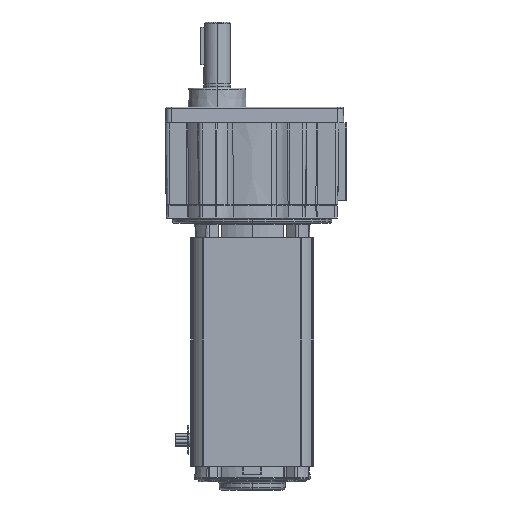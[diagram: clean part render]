
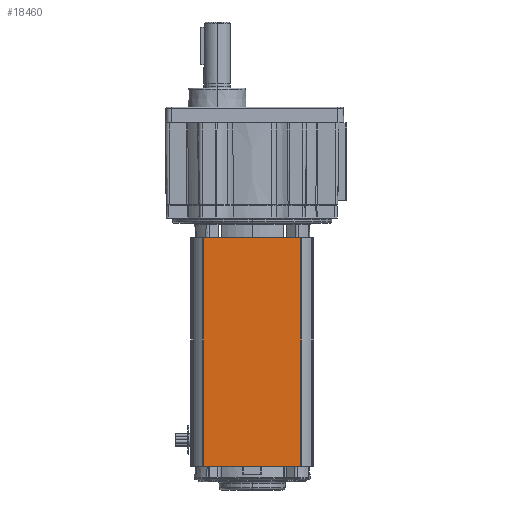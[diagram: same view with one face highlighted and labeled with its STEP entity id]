
A CAD part, left-side view. The second image highlights one B-rep face of the part: STEP entity #18460.
In plain terms, the highlighted planar face has unit normal (-1, 0, 0).
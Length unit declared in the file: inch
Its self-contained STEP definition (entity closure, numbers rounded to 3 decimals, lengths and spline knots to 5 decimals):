
#3678 = CARTESIAN_POINT ( 'NONE',  ( -1.442, -1.1355, -6.48104 ) ) ;
#4185 = DIRECTION ( 'NONE',  ( -1., 0., 0. ) ) ;
#6487 = CARTESIAN_POINT ( 'NONE',  ( -1.442, -1.1355, -6.55404 ) ) ;
#7954 = VECTOR ( 'NONE', #38502, 39.37008 ) ;
#8459 = DIRECTION ( 'NONE',  ( 0., 1., 0. ) ) ;
#9492 = CARTESIAN_POINT ( 'NONE',  ( -1.442, -1.1355, -1.11104 ) ) ;
#10188 = FACE_OUTER_BOUND ( 'NONE', #54363, .T. ) ;
#11494 = VERTEX_POINT ( 'NONE', #52065 ) ;
#12610 = VERTEX_POINT ( 'NONE', #9492 ) ;
#12640 = LINE ( 'NONE', #3678, #54355 ) ;
#15503 = CARTESIAN_POINT ( 'NONE',  ( -1.442, -1.1555, -1.11104 ) ) ;
#15800 = AXIS2_PLACEMENT_3D ( 'NONE', #31531, #4185, #36128 ) ;
#18460 = ADVANCED_FACE ( 'NONE', ( #10188 ), #40611, .T. ) ;
#18697 = ORIENTED_EDGE ( 'NONE', *, *, #57315, .T. ) ;
#20068 = DIRECTION ( 'NONE',  ( 0., -1., 0. ) ) ;
#20073 = LINE ( 'NONE', #6487, #7954 ) ;
#24222 = CARTESIAN_POINT ( 'NONE',  ( -1.442, -1.1355, -6.48104 ) ) ;
#25512 = VECTOR ( 'NONE', #20068, 39.37008 ) ;
#30186 = CARTESIAN_POINT ( 'NONE',  ( -1.442, 1.1355, -6.55404 ) ) ;
#31531 = CARTESIAN_POINT ( 'NONE',  ( -1.442, -1.1555, -6.55404 ) ) ;
#33407 = ORIENTED_EDGE ( 'NONE', *, *, #55717, .F. ) ;
#34356 = CARTESIAN_POINT ( 'NONE',  ( -1.442, 1.1355, -1.11104 ) ) ;
#34774 = DIRECTION ( 'NONE',  ( 0., 0., -1. ) ) ;
#36128 = DIRECTION ( 'NONE',  ( 0., 0., 1. ) ) ;
#37589 = LINE ( 'NONE', #15503, #25512 ) ;
#37679 = ORIENTED_EDGE ( 'NONE', *, *, #58562, .F. ) ;
#38502 = DIRECTION ( 'NONE',  ( 0., 0., 1. ) ) ;
#40611 = PLANE ( 'NONE',  #15800 ) ;
#40858 = LINE ( 'NONE', #30186, #53153 ) ;
#43009 = VERTEX_POINT ( 'NONE', #34356 ) ;
#43049 = EDGE_CURVE ( 'NONE', #43009, #11494, #40858, .T. ) ;
#49410 = VERTEX_POINT ( 'NONE', #24222 ) ;
#50104 = ORIENTED_EDGE ( 'NONE', *, *, #43049, .T. ) ;
#52065 = CARTESIAN_POINT ( 'NONE',  ( -1.442, 1.1355, -6.48104 ) ) ;
#53153 = VECTOR ( 'NONE', #34774, 39.37008 ) ;
#54355 = VECTOR ( 'NONE', #8459, 39.37008 ) ;
#54363 = EDGE_LOOP ( 'NONE', ( #50104, #37679, #18697, #33407 ) ) ;
#55717 = EDGE_CURVE ( 'NONE', #43009, #12610, #37589, .T. ) ;
#57315 = EDGE_CURVE ( 'NONE', #49410, #12610, #20073, .T. ) ;
#58562 = EDGE_CURVE ( 'NONE', #49410, #11494, #12640, .T. ) ;
